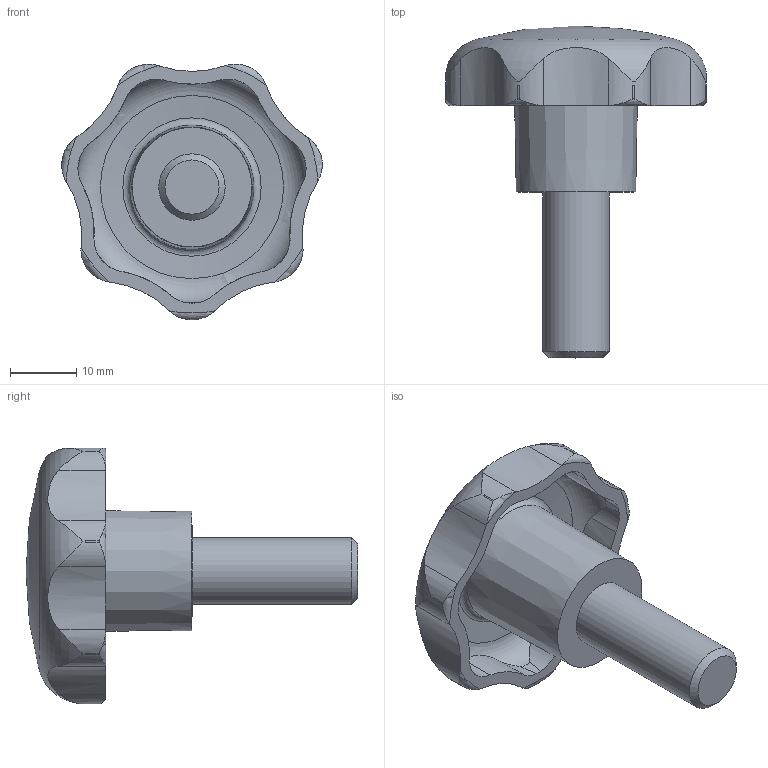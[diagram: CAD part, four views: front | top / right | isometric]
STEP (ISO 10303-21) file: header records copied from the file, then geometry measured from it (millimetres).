
FILE_DESCRIPTION( ( 'STEP AP203' ), '1' );
FILE_NAME( 'C:/Temp/Ganter_Step_05_03_2020/data/2_2/gn_6336_4/gn_6336_4_st/Star knob GN 6336.4-ST-40-M10-25.stp', '2020-03-05T12:07:32', ( 'License CC BY-ND 4.0' ), ( 'CADENAS' ), ' ', 'PARTsolutions', ' ' );
FILE_SCHEMA( ( 'CONFIG_CONTROL_DESIGN' ) );
Length unit declared in the file: millimetre
Products named in the file (1): _Star knob GN 6336.4-ST-40-M10-25
Bounding box: 39.25 x 50 x 38.52 mm (x, y, z)
Volume: 12760.9 mm3; surface area: 5662.6 mm2
Topology: 1 solids, 1 shells, 74 faces, 208 edges, 137 vertices
Faces by surface type: cylinder 43, torus 17, cone 10, plane 3, sphere 1
Full cylindrical faces by diameter (mm): 10 x1
Entity records: 3288 total; most frequent: CARTESIAN_POINT 1437, ORIENTED_EDGE 394, DIRECTION 362, EDGE_CURVE 197, AXIS2_PLACEMENT_3D 160, VERTEX_POINT 135, CIRCLE 85, EDGE_LOOP 83
